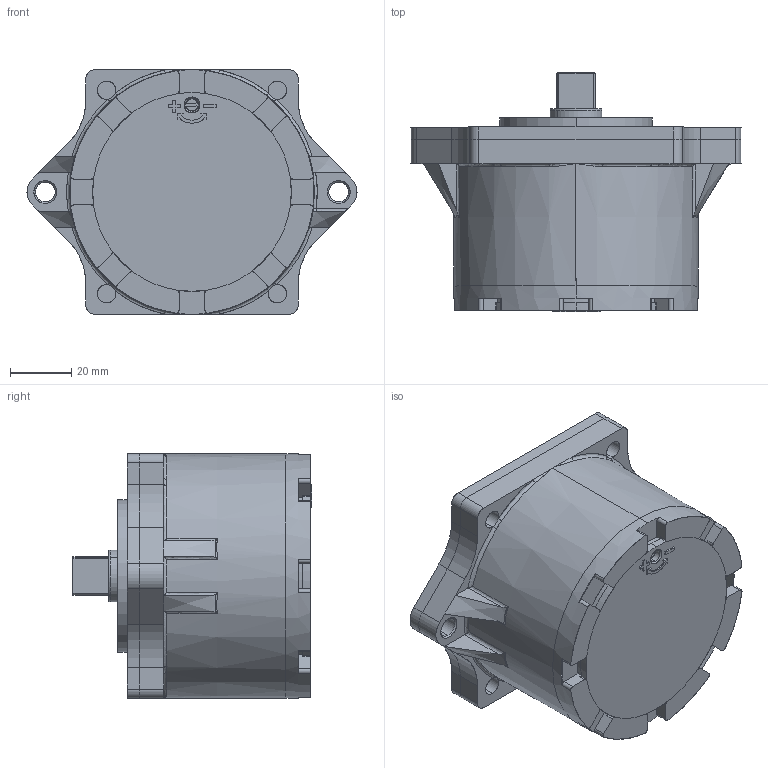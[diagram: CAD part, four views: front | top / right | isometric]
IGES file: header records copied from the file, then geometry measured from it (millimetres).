
Start section: SolidWorks IGES file using analytic representation for surfaces
Bounding box: 108 x 78.5 x 80 mm (x, y, z)
Surface area: 36270.7 mm2 (no closed solid volume)
Topology: 0 solids, 0 shells, 309 faces, 3328 edges, 3323 vertices
Faces by surface type: bspline 167, revolution 142
